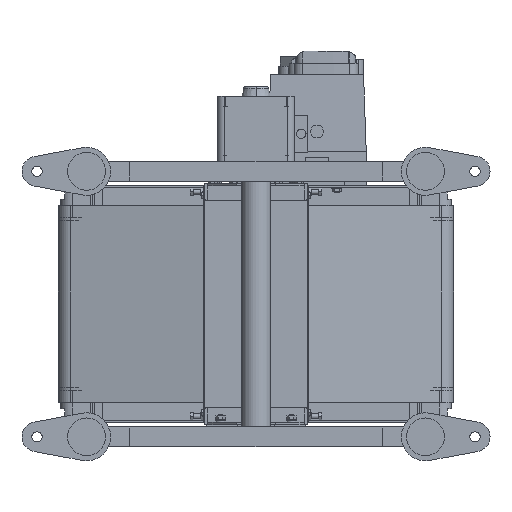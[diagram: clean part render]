
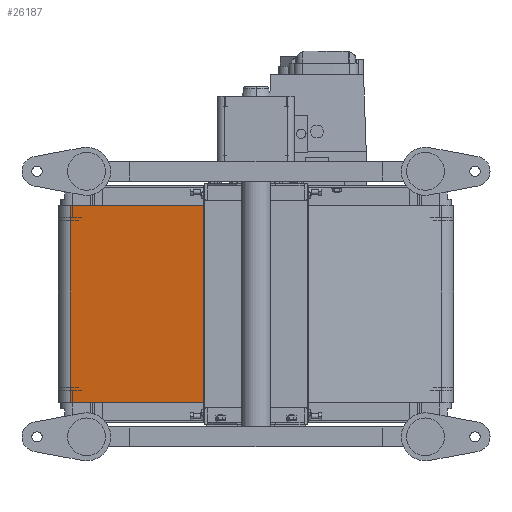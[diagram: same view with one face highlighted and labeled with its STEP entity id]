
A CAD part, front view. The second image highlights one B-rep face of the part: STEP entity #26187.
In plain terms, the highlighted planar face has unit normal (-0.176, -0.984, 0).
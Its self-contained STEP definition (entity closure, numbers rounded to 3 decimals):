
#459 = EDGE_CURVE ( 'NONE', #4071, #5658, #52552, .T. ) ;
#2205 = DIRECTION ( 'NONE',  ( -0.984, 0.176, 0. ) ) ;
#4004 = ORIENTED_EDGE ( 'NONE', *, *, #459, .F. ) ;
#4071 = VERTEX_POINT ( 'NONE', #53173 ) ;
#5658 = VERTEX_POINT ( 'NONE', #39831 ) ;
#7427 = DIRECTION ( 'NONE',  ( 0., 0., -1. ) ) ;
#8811 = DIRECTION ( 'NONE',  ( 0., 0., -1. ) ) ;
#9660 = CARTESIAN_POINT ( 'NONE',  ( 14.409, -33.936, -125. ) ) ;
#13615 = FACE_OUTER_BOUND ( 'NONE', #65826, .T. ) ;
#14523 = CARTESIAN_POINT ( 'NONE',  ( 14.409, -33.936, 125. ) ) ;
#14856 = AXIS2_PLACEMENT_3D ( 'NONE', #76845, #39332, #2205 ) ;
#14882 = EDGE_CURVE ( 'NONE', #25874, #15873, #74362, .T. ) ;
#15873 = VERTEX_POINT ( 'NONE', #31746 ) ;
#25874 = VERTEX_POINT ( 'NONE', #9660 ) ;
#26187 = ADVANCED_FACE ( 'NONE', ( #13615 ), #64753, .F. ) ;
#27859 = VECTOR ( 'NONE', #7427, 1000. ) ;
#31746 = CARTESIAN_POINT ( 'NONE',  ( 217.987, -70.264, -125. ) ) ;
#37161 = CARTESIAN_POINT ( 'NONE',  ( 217.987, -70.264, 125. ) ) ;
#39332 = DIRECTION ( 'NONE',  ( 0.176, 0.984, 0. ) ) ;
#39831 = CARTESIAN_POINT ( 'NONE',  ( 217.987, -70.264, 125. ) ) ;
#42043 = DIRECTION ( 'NONE',  ( 0.984, -0.176, 0. ) ) ;
#42254 = ORIENTED_EDGE ( 'NONE', *, *, #14882, .T. ) ;
#45628 = VECTOR ( 'NONE', #49480, 1000. ) ;
#45957 = VECTOR ( 'NONE', #42043, 1000. ) ;
#46395 = CARTESIAN_POINT ( 'NONE',  ( 14.409, -33.936, -125. ) ) ;
#49480 = DIRECTION ( 'NONE',  ( 0.984, -0.176, 0. ) ) ;
#52552 = LINE ( 'NONE', #80481, #45628 ) ;
#53173 = CARTESIAN_POINT ( 'NONE',  ( 14.409, -33.936, 125. ) ) ;
#60758 = ORIENTED_EDGE ( 'NONE', *, *, #79269, .T. ) ;
#61009 = VECTOR ( 'NONE', #8811, 1000. ) ;
#64753 = PLANE ( 'NONE',  #14856 ) ;
#65000 = ORIENTED_EDGE ( 'NONE', *, *, #77346, .F. ) ;
#65826 = EDGE_LOOP ( 'NONE', ( #42254, #65000, #4004, #60758 ) ) ;
#66895 = LINE ( 'NONE', #14523, #61009 ) ;
#74362 = LINE ( 'NONE', #46395, #45957 ) ;
#75827 = LINE ( 'NONE', #37161, #27859 ) ;
#76845 = CARTESIAN_POINT ( 'NONE',  ( 14.409, -33.936, 125. ) ) ;
#77346 = EDGE_CURVE ( 'NONE', #5658, #15873, #75827, .T. ) ;
#79269 = EDGE_CURVE ( 'NONE', #4071, #25874, #66895, .T. ) ;
#80481 = CARTESIAN_POINT ( 'NONE',  ( 14.409, -33.936, 125. ) ) ;
